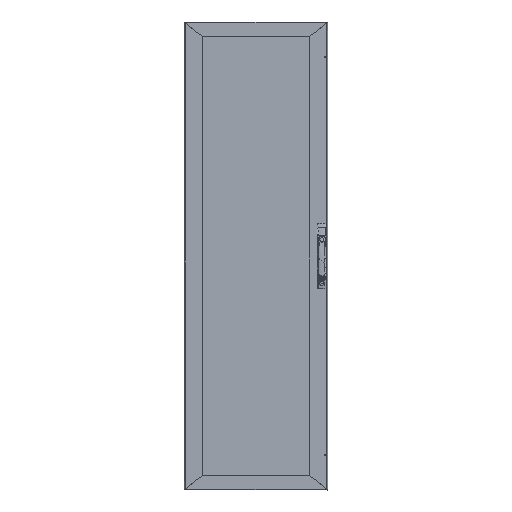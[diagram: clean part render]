
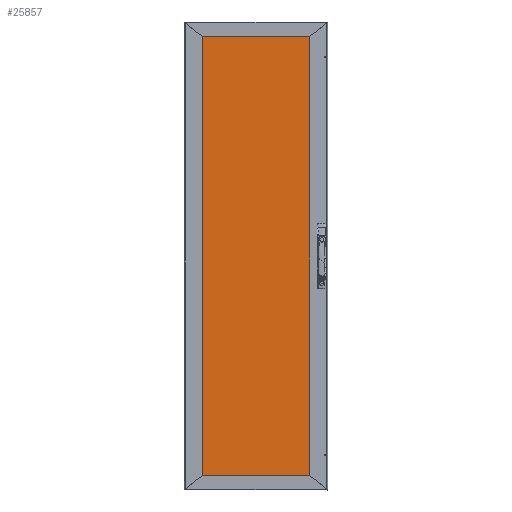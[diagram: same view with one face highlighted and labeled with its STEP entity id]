
A CAD part, top view. The second image highlights one B-rep face of the part: STEP entity #25857.
In plain terms, the highlighted planar face has unit normal (0, 0, 1) as drawn and (0, 0, -1) by its records, which use the part's own axes.
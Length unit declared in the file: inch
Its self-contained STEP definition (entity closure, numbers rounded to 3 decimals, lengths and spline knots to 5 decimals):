
#6890 = CARTESIAN_POINT ( 'NONE',  ( -9.22047, 36.22047, 0. ) ) ;
#6897 = PLANE ( 'NONE',  #29144 ) ;
#6903 = DIRECTION ( 'NONE',  ( 0., 0., 1. ) ) ;
#6905 = DIRECTION ( 'NONE',  ( 1., 0., 0. ) ) ;
#13360 = LINE ( 'NONE', #40065, #13982 ) ;
#13817 = VECTOR ( 'NONE', #40561, 39.37008 ) ;
#13938 = LINE ( 'NONE', #40426, #13939 ) ;
#13939 = VECTOR ( 'NONE', #40428, 39.37008 ) ;
#13982 = VECTOR ( 'NONE', #40083, 39.37008 ) ;
#14125 = LINE ( 'NONE', #40656, #14152 ) ;
#14142 = LINE ( 'NONE', #40558, #13817 ) ;
#14152 = VECTOR ( 'NONE', #40665, 39.37008 ) ;
#25857 = ADVANCED_FACE ( 'Face1', ( #27932 ), #6897, .F. ) ;
#27932 = FACE_OUTER_BOUND ( 'NONE', #85915, .T. ) ;
#29144 = AXIS2_PLACEMENT_3D ( 'NONE', #6890, #6903, #6905 ) ;
#32229 = CARTESIAN_POINT ( 'NONE',  ( -9.22047, -36.22047, 0. ) ) ;
#32292 = CARTESIAN_POINT ( 'NONE',  ( -9.22047, 36.22047, 0. ) ) ;
#32481 = CARTESIAN_POINT ( 'NONE',  ( 9.22047, 36.22047, 0. ) ) ;
#32496 = CARTESIAN_POINT ( 'NONE',  ( 9.22047, -36.22047, 0. ) ) ;
#40065 = CARTESIAN_POINT ( 'NONE',  ( -9.22047, 36.22047, 0. ) ) ;
#40083 = DIRECTION ( 'NONE',  ( 0., -1., 0. ) ) ;
#40426 = CARTESIAN_POINT ( 'NONE',  ( -9.22047, -36.22047, 0. ) ) ;
#40428 = DIRECTION ( 'NONE',  ( 1., 0., 0. ) ) ;
#40558 = CARTESIAN_POINT ( 'NONE',  ( 9.22047, 36.22047, 0. ) ) ;
#40561 = DIRECTION ( 'NONE',  ( 0., 1., 0. ) ) ;
#40656 = CARTESIAN_POINT ( 'NONE',  ( -9.22047, 36.22047, 0. ) ) ;
#40665 = DIRECTION ( 'NONE',  ( -1., 0., 0. ) ) ;
#77030 = VERTEX_POINT ( 'NONE', #32229 ) ;
#77054 = VERTEX_POINT ( 'NONE', #32292 ) ;
#77190 = VERTEX_POINT ( 'NONE', #32481 ) ;
#77192 = VERTEX_POINT ( 'NONE', #32496 ) ;
#79755 = EDGE_CURVE ( 'NONE', #77054, #77030, #13360, .T. ) ;
#79935 = EDGE_CURVE ( 'NONE', #77030, #77192, #13938, .T. ) ;
#80016 = EDGE_CURVE ( 'NONE', #77192, #77190, #14142, .T. ) ;
#80078 = EDGE_CURVE ( 'NONE', #77190, #77054, #14125, .T. ) ;
#83464 = ORIENTED_EDGE ( 'NONE', *, *, #79935, .F. ) ;
#83465 = ORIENTED_EDGE ( 'NONE', *, *, #80016, .F. ) ;
#83467 = ORIENTED_EDGE ( 'NONE', *, *, #80078, .F. ) ;
#83468 = ORIENTED_EDGE ( 'NONE', *, *, #79755, .F. ) ;
#85915 = EDGE_LOOP ( 'NONE', ( #83468, #83467, #83465, #83464 ) ) ;
